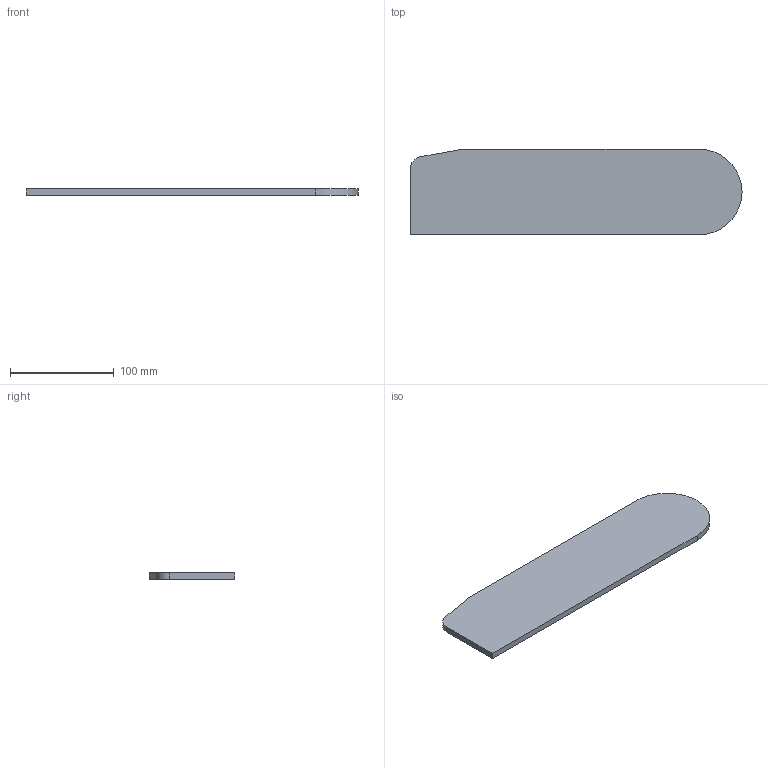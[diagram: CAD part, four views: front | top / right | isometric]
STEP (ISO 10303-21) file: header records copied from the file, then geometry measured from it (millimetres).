
FILE_DESCRIPTION (( 'STEP AP214' ), '1' );
FILE_NAME ('YYDK-500-0011 油管保护罩2（500T）-1.step', '2024-11-20T05:47:05', ( '' ), ( '' ), 'SwSTEP 2.0', 'SolidWorks 2020', '' );
FILE_SCHEMA (( 'AUTOMOTIVE_DESIGN' ));
Length unit declared in the file: inch
Products named in the file (1): YYDK-500-0011 油管保护罩2（500T）-1
Bounding box: 320.68 x 82.55 x 5.99 mm (x, y, z)
Volume: 152798.8 mm3; surface area: 55531.9 mm2
Topology: 1 solids, 1 shells, 8 faces, 18 edges, 12 vertices
Faces by surface type: plane 6, cylinder 2
Entity records: 266 total; most frequent: DIRECTION 40, CARTESIAN_POINT 39, ORIENTED_EDGE 36, EDGE_CURVE 18, LINE 14, VECTOR 14, AXIS2_PLACEMENT_3D 13, VERTEX_POINT 12
